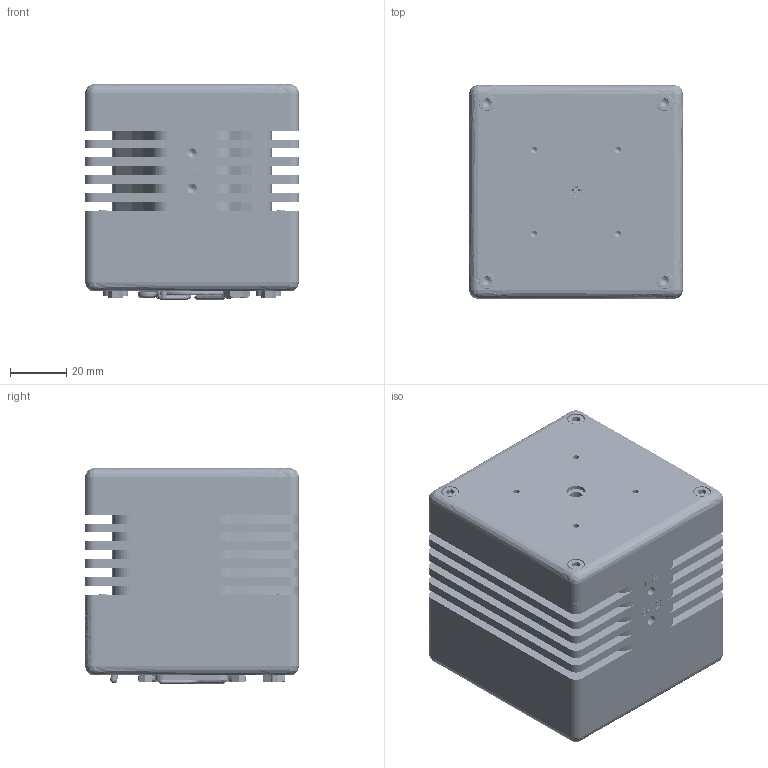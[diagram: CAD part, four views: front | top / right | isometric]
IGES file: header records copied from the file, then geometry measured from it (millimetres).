
Start section: SolidWorks IGES file using analytic representation for surfaces
Global section: file name: C:\Users\mrhan\Dropbox\Mechanical Engr\CAD models for customers\234B-TEC LaserMount.IGS; native system: SolidWorks 2020; preprocessor: SolidWorks 2020; author: mrhan; date: 220621.131647; units: millimetre
Bounding box: 76.2 x 76.2 x 76.97 mm (x, y, z)
Surface area: 86168.1 mm2 (no closed solid volume)
Topology: 0 solids, 0 shells, 4127 faces, 41696 edges, 41645 vertices
Faces by surface type: bspline 3260, revolution 867
